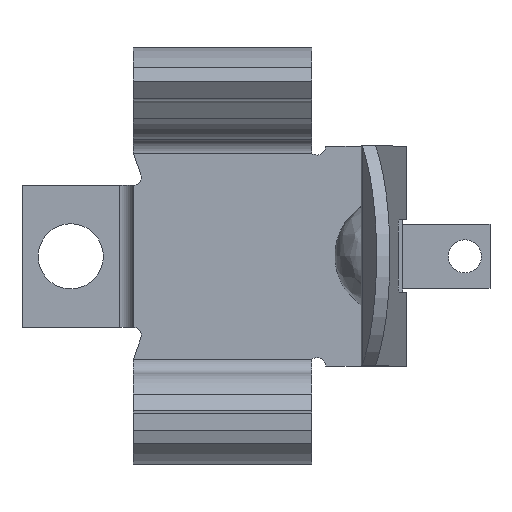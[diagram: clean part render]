
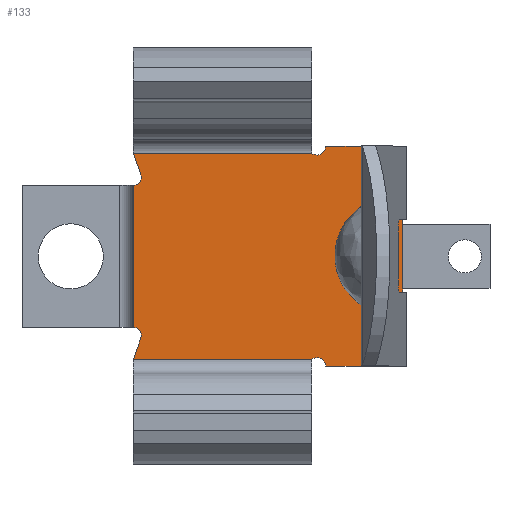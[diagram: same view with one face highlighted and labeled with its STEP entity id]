
A CAD part, top view. The second image highlights one B-rep face of the part: STEP entity #133.
In plain terms, the highlighted planar face has unit normal (0, 0, 1).
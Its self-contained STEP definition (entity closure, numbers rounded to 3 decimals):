
#42 = VERTEX_POINT('',#43);
#43 = CARTESIAN_POINT('',(-1.4,-2.55,1.));
#59 = VERTEX_POINT('',#60);
#60 = CARTESIAN_POINT('',(-1.4,2.55,1.));
#67 = EDGE_CURVE('',#42,#59,#68,.T.);
#68 = LINE('',#69,#70);
#69 = CARTESIAN_POINT('',(-1.4,-29.44,1.));
#70 = VECTOR('',#71,1.);
#71 = DIRECTION('',(0.,1.,0.));
#133 = ADVANCED_FACE('',(#134),#259,.T.);
#134 = FACE_BOUND('',#135,.T.);
#135 = EDGE_LOOP('',(#136,#147,#155,#163,#170,#171,#180,#188,#196,#205,
    #213,#221,#229,#237,#245,#253));
#136 = ORIENTED_EDGE('',*,*,#137,.F.);
#137 = EDGE_CURVE('',#138,#140,#142,.T.);
#138 = VERTEX_POINT('',#139);
#139 = CARTESIAN_POINT('',(5.,3.7,1.));
#140 = VERTEX_POINT('',#141);
#141 = CARTESIAN_POINT('',(5.5,3.95,1.));
#142 = CIRCLE('',#143,0.313);
#143 = AXIS2_PLACEMENT_3D('',#144,#145,#146);
#144 = CARTESIAN_POINT('',(5.187,3.95,1.));
#145 = DIRECTION('',(0.,0.,1.));
#146 = DIRECTION('',(1.,0.,0.));
#147 = ORIENTED_EDGE('',*,*,#148,.F.);
#148 = EDGE_CURVE('',#149,#138,#151,.T.);
#149 = VERTEX_POINT('',#150);
#150 = CARTESIAN_POINT('',(-1.4,3.7,1.));
#151 = LINE('',#152,#153);
#152 = CARTESIAN_POINT('',(-1.4,3.7,1.));
#153 = VECTOR('',#154,1.);
#154 = DIRECTION('',(1.,0.,0.));
#155 = ORIENTED_EDGE('',*,*,#156,.F.);
#156 = EDGE_CURVE('',#157,#149,#159,.T.);
#157 = VERTEX_POINT('',#158);
#158 = CARTESIAN_POINT('',(-1.131,2.928,1.));
#159 = LINE('',#160,#161);
#160 = CARTESIAN_POINT('',(-0.544,1.239,1.));
#161 = VECTOR('',#162,1.);
#162 = DIRECTION('',(-0.329,0.944,0.)
  );
#163 = ORIENTED_EDGE('',*,*,#164,.F.);
#164 = EDGE_CURVE('',#59,#157,#165,.T.);
#165 = CIRCLE('',#166,0.284);
#166 = AXIS2_PLACEMENT_3D('',#167,#168,#169);
#167 = CARTESIAN_POINT('',(-1.4,2.834,1.));
#168 = DIRECTION('',(0.,0.,1.));
#169 = DIRECTION('',(1.,0.,0.));
#170 = ORIENTED_EDGE('',*,*,#67,.F.);
#171 = ORIENTED_EDGE('',*,*,#172,.F.);
#172 = EDGE_CURVE('',#173,#42,#175,.T.);
#173 = VERTEX_POINT('',#174);
#174 = CARTESIAN_POINT('',(-1.131,-2.928,1.));
#175 = CIRCLE('',#176,0.284);
#176 = AXIS2_PLACEMENT_3D('',#177,#178,#179);
#177 = CARTESIAN_POINT('',(-1.4,-2.834,1.));
#178 = DIRECTION('',(0.,0.,1.));
#179 = DIRECTION('',(1.,0.,0.));
#180 = ORIENTED_EDGE('',*,*,#181,.T.);
#181 = EDGE_CURVE('',#173,#182,#184,.T.);
#182 = VERTEX_POINT('',#183);
#183 = CARTESIAN_POINT('',(-1.4,-3.7,1.));
#184 = LINE('',#185,#186);
#185 = CARTESIAN_POINT('',(-0.544,-1.239,1.));
#186 = VECTOR('',#187,1.);
#187 = DIRECTION('',(-0.329,-0.944,0.)
  );
#188 = ORIENTED_EDGE('',*,*,#189,.F.);
#189 = EDGE_CURVE('',#190,#182,#192,.T.);
#190 = VERTEX_POINT('',#191);
#191 = CARTESIAN_POINT('',(5.,-3.7,1.));
#192 = LINE('',#193,#194);
#193 = CARTESIAN_POINT('',(5.,-3.7,1.));
#194 = VECTOR('',#195,1.);
#195 = DIRECTION('',(-1.,0.,0.));
#196 = ORIENTED_EDGE('',*,*,#197,.F.);
#197 = EDGE_CURVE('',#198,#190,#200,.T.);
#198 = VERTEX_POINT('',#199);
#199 = CARTESIAN_POINT('',(5.5,-3.95,1.));
#200 = CIRCLE('',#201,0.312);
#201 = AXIS2_PLACEMENT_3D('',#202,#203,#204);
#202 = CARTESIAN_POINT('',(5.188,-3.95,1.));
#203 = DIRECTION('',(0.,0.,1.));
#204 = DIRECTION('',(1.,0.,0.));
#205 = ORIENTED_EDGE('',*,*,#206,.T.);
#206 = EDGE_CURVE('',#198,#207,#209,.T.);
#207 = VERTEX_POINT('',#208);
#208 = CARTESIAN_POINT('',(7.4,-3.95,1.));
#209 = LINE('',#210,#211);
#210 = CARTESIAN_POINT('',(5.5,-3.95,1.));
#211 = VECTOR('',#212,1.);
#212 = DIRECTION('',(1.,0.,0.));
#213 = ORIENTED_EDGE('',*,*,#214,.F.);
#214 = EDGE_CURVE('',#215,#207,#217,.T.);
#215 = VERTEX_POINT('',#216);
#216 = CARTESIAN_POINT('',(7.4,-1.317,1.));
#217 = LINE('',#218,#219);
#218 = CARTESIAN_POINT('',(7.4,3.95,1.));
#219 = VECTOR('',#220,1.);
#220 = DIRECTION('',(0.,-1.,0.));
#221 = ORIENTED_EDGE('',*,*,#222,.F.);
#222 = EDGE_CURVE('',#223,#215,#225,.T.);
#223 = VERTEX_POINT('',#224);
#224 = CARTESIAN_POINT('',(8.266,-1.317,1.));
#225 = LINE('',#226,#227);
#226 = CARTESIAN_POINT('',(28.248,-1.317,1.));
#227 = VECTOR('',#228,1.);
#228 = DIRECTION('',(-1.,0.,0.));
#229 = ORIENTED_EDGE('',*,*,#230,.F.);
#230 = EDGE_CURVE('',#231,#223,#233,.T.);
#231 = VERTEX_POINT('',#232);
#232 = CARTESIAN_POINT('',(8.266,1.317,1.));
#233 = LINE('',#234,#235);
#234 = CARTESIAN_POINT('',(8.266,-29.44,1.));
#235 = VECTOR('',#236,1.);
#236 = DIRECTION('',(0.,-1.,0.));
#237 = ORIENTED_EDGE('',*,*,#238,.T.);
#238 = EDGE_CURVE('',#231,#239,#241,.T.);
#239 = VERTEX_POINT('',#240);
#240 = CARTESIAN_POINT('',(7.4,1.317,1.));
#241 = LINE('',#242,#243);
#242 = CARTESIAN_POINT('',(28.248,1.317,1.));
#243 = VECTOR('',#244,1.);
#244 = DIRECTION('',(-1.,0.,0.));
#245 = ORIENTED_EDGE('',*,*,#246,.F.);
#246 = EDGE_CURVE('',#247,#239,#249,.T.);
#247 = VERTEX_POINT('',#248);
#248 = CARTESIAN_POINT('',(7.4,3.95,1.));
#249 = LINE('',#250,#251);
#250 = CARTESIAN_POINT('',(7.4,3.95,1.));
#251 = VECTOR('',#252,1.);
#252 = DIRECTION('',(0.,-1.,0.));
#253 = ORIENTED_EDGE('',*,*,#254,.F.);
#254 = EDGE_CURVE('',#140,#247,#255,.T.);
#255 = LINE('',#256,#257);
#256 = CARTESIAN_POINT('',(5.5,3.95,1.));
#257 = VECTOR('',#258,1.);
#258 = DIRECTION('',(1.,0.,0.));
#259 = PLANE('',#260);
#260 = AXIS2_PLACEMENT_3D('',#261,#262,#263);
#261 = CARTESIAN_POINT('',(3.349,0.,1.));
#262 = DIRECTION('',(0.,0.,1.));
#263 = DIRECTION('',(1.,0.,0.));
